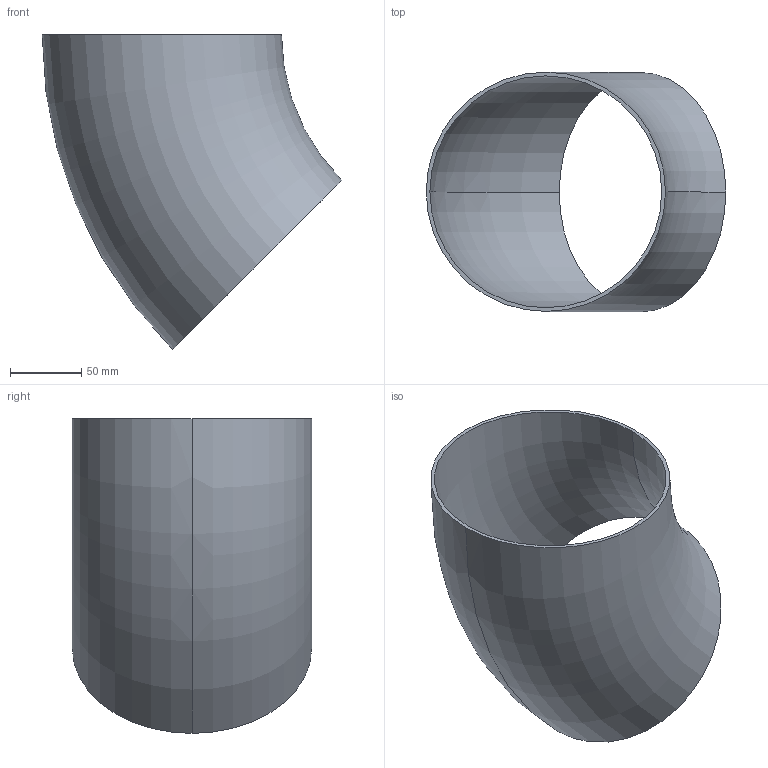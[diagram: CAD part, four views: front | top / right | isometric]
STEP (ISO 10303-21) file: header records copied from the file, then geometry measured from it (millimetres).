
FILE_DESCRIPTION (( 'STEP AP203' ), '1' );
FILE_NAME ('3D_R1650_168.3x2.6_17351760.STEP', '2024-08-03T09:17:16', ( '' ), ( '' ), 'SwSTEP 2.0', 'SolidWorks 2024', '' );
FILE_SCHEMA (( 'CONFIG_CONTROL_DESIGN' ));
Length unit declared in the file: millimetre
Products named in the file (1): 3D_R1650_168.3x2.6_17351760
Bounding box: 210.73 x 168.3 x 221.43 mm (x, y, z)
Volume: 243428.3 mm3; surface area: 189959.5 mm2
Topology: 1 solids, 1 shells, 6 faces, 12 edges, 8 vertices
Faces by surface type: torus 4, plane 2
Entity records: 249 total; most frequent: DIRECTION 38, CARTESIAN_POINT 27, ORIENTED_EDGE 24, AXIS2_PLACEMENT_3D 19, EDGE_CURVE 12, CIRCLE 12, PERSON_AND_ORGANIZATION 8, EDGE_LOOP 8
